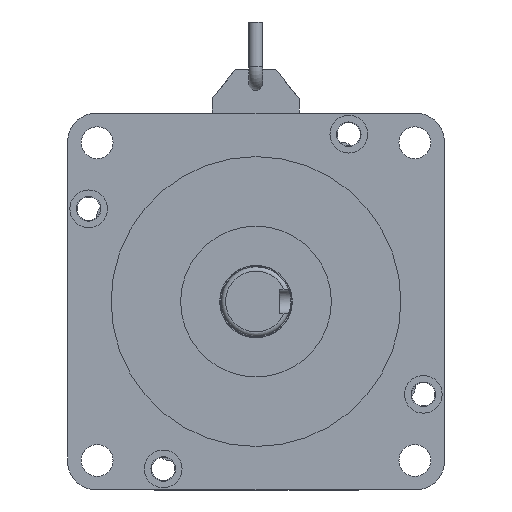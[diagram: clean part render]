
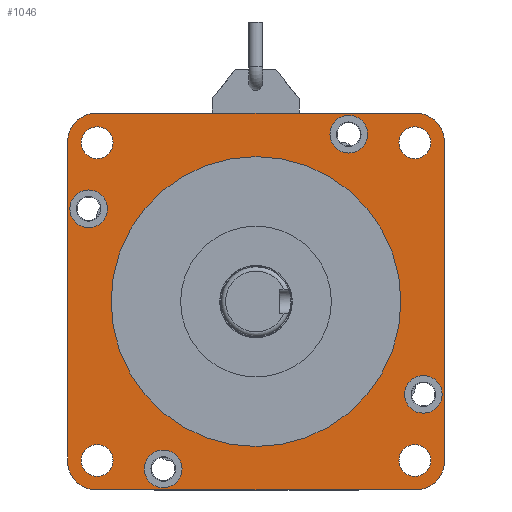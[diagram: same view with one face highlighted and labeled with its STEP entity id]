
A CAD part, front view. The second image highlights one B-rep face of the part: STEP entity #1046.
In plain terms, the highlighted planar face has unit normal (0, -1, 0).
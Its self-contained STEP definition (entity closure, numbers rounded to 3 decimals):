
#347=PLANE('',#8581);
#1046=ADVANCED_FACE('',(#1487,#1488,#1489,#1490,#1491,#1492,#1493,#1494,
#1495,#1496),#347,.T.);
#1487=FACE_BOUND('',#2018,.T.);
#1488=FACE_BOUND('',#2019,.T.);
#1489=FACE_BOUND('',#2020,.T.);
#1490=FACE_BOUND('',#2021,.T.);
#1491=FACE_BOUND('',#2022,.T.);
#1492=FACE_BOUND('',#2023,.T.);
#1493=FACE_BOUND('',#2024,.T.);
#1494=FACE_BOUND('',#2025,.T.);
#1495=FACE_BOUND('',#2026,.T.);
#1496=FACE_BOUND('',#2027,.T.);
#2018=EDGE_LOOP('',(#3746));
#2019=EDGE_LOOP('',(#3747));
#2020=EDGE_LOOP('',(#3748));
#2021=EDGE_LOOP('',(#3749));
#2022=EDGE_LOOP('',(#3750));
#2023=EDGE_LOOP('',(#3751));
#2024=EDGE_LOOP('',(#3752));
#2025=EDGE_LOOP('',(#3753));
#2026=EDGE_LOOP('',(#3754));
#2027=EDGE_LOOP('',(#3755,#3756,#3757,#3758,#3759,#3760,#3761,#3762));
#3746=ORIENTED_EDGE('',*,*,#5938,.T.);
#3747=ORIENTED_EDGE('',*,*,#5936,.T.);
#3748=ORIENTED_EDGE('',*,*,#5934,.T.);
#3749=ORIENTED_EDGE('',*,*,#5932,.T.);
#3750=ORIENTED_EDGE('',*,*,#5923,.T.);
#3751=ORIENTED_EDGE('',*,*,#5921,.T.);
#3752=ORIENTED_EDGE('',*,*,#5919,.T.);
#3753=ORIENTED_EDGE('',*,*,#5925,.T.);
#3754=ORIENTED_EDGE('',*,*,#5941,.T.);
#3755=ORIENTED_EDGE('',*,*,#5903,.F.);
#3756=ORIENTED_EDGE('',*,*,#5912,.T.);
#3757=ORIENTED_EDGE('',*,*,#5910,.F.);
#3758=ORIENTED_EDGE('',*,*,#5918,.T.);
#3759=ORIENTED_EDGE('',*,*,#5889,.F.);
#3760=ORIENTED_EDGE('',*,*,#5916,.T.);
#3761=ORIENTED_EDGE('',*,*,#5896,.F.);
#3762=ORIENTED_EDGE('',*,*,#5914,.T.);
#4902=VERTEX_POINT('',#12781);
#4907=VERTEX_POINT('',#12791);
#4908=VERTEX_POINT('',#12795);
#4913=VERTEX_POINT('',#12805);
#4914=VERTEX_POINT('',#12809);
#4919=VERTEX_POINT('',#12819);
#4920=VERTEX_POINT('',#12823);
#4925=VERTEX_POINT('',#12833);
#4926=VERTEX_POINT('',#12849);
#4928=VERTEX_POINT('',#12854);
#4930=VERTEX_POINT('',#12859);
#4932=VERTEX_POINT('',#12864);
#4939=VERTEX_POINT('',#12883);
#4941=VERTEX_POINT('',#12888);
#4943=VERTEX_POINT('',#12893);
#4945=VERTEX_POINT('',#12898);
#4948=VERTEX_POINT('',#12907);
#5889=EDGE_CURVE('',#4907,#4902,#7124,.T.);
#5896=EDGE_CURVE('',#4913,#4908,#7131,.T.);
#5903=EDGE_CURVE('',#4919,#4914,#7138,.T.);
#5910=EDGE_CURVE('',#4925,#4920,#7145,.T.);
#5912=EDGE_CURVE('',#4919,#4920,#6303,.T.);
#5914=EDGE_CURVE('',#4913,#4914,#6305,.T.);
#5916=EDGE_CURVE('',#4907,#4908,#6307,.T.);
#5918=EDGE_CURVE('',#4925,#4902,#6309,.T.);
#5919=EDGE_CURVE('',#4926,#4926,#6310,.T.);
#5921=EDGE_CURVE('',#4928,#4928,#6312,.T.);
#5923=EDGE_CURVE('',#4930,#4930,#6314,.T.);
#5925=EDGE_CURVE('',#4932,#4932,#6316,.T.);
#5932=EDGE_CURVE('',#4939,#4939,#6323,.T.);
#5934=EDGE_CURVE('',#4941,#4941,#6325,.T.);
#5936=EDGE_CURVE('',#4943,#4943,#6327,.T.);
#5938=EDGE_CURVE('',#4945,#4945,#6329,.T.);
#5941=EDGE_CURVE('',#4948,#4948,#6332,.T.);
#6303=CIRCLE('',#8532,10.);
#6305=CIRCLE('',#8535,10.);
#6307=CIRCLE('',#8538,10.);
#6309=CIRCLE('',#8541,10.);
#6310=CIRCLE('',#8543,5.5);
#6312=CIRCLE('',#8546,5.5);
#6314=CIRCLE('',#8549,5.5);
#6316=CIRCLE('',#8552,5.5);
#6323=CIRCLE('',#8564,6.5);
#6325=CIRCLE('',#8567,6.5);
#6327=CIRCLE('',#8570,6.5);
#6329=CIRCLE('',#8573,6.5);
#6332=CIRCLE('',#8579,50.);
#7124=LINE('',#12792,#7987);
#7131=LINE('',#12806,#7994);
#7138=LINE('',#12820,#8001);
#7145=LINE('',#12834,#8008);
#7987=VECTOR('',#10159,1.);
#7994=VECTOR('',#10168,1.);
#8001=VECTOR('',#10177,1.);
#8008=VECTOR('',#10186,1.);
#8532=AXIS2_PLACEMENT_3D('',#12837,#10191,#10192);
#8535=AXIS2_PLACEMENT_3D('',#12840,#10197,#10198);
#8538=AXIS2_PLACEMENT_3D('',#12843,#10203,#10204);
#8541=AXIS2_PLACEMENT_3D('',#12846,#10209,#10210);
#8543=AXIS2_PLACEMENT_3D('',#12848,#10213,#10214);
#8546=AXIS2_PLACEMENT_3D('',#12853,#10219,#10220);
#8549=AXIS2_PLACEMENT_3D('',#12858,#10225,#10226);
#8552=AXIS2_PLACEMENT_3D('',#12863,#10231,#10232);
#8564=AXIS2_PLACEMENT_3D('',#12882,#10255,#10256);
#8567=AXIS2_PLACEMENT_3D('',#12887,#10261,#10262);
#8570=AXIS2_PLACEMENT_3D('',#12892,#10267,#10268);
#8573=AXIS2_PLACEMENT_3D('',#12897,#10273,#10274);
#8579=AXIS2_PLACEMENT_3D('',#12906,#10285,#10286);
#8581=AXIS2_PLACEMENT_3D('',#12909,#10289,#10290);
#10159=DIRECTION('',(0.,0.,1.));
#10168=DIRECTION('',(-1.,0.,0.));
#10177=DIRECTION('',(0.,0.,-1.));
#10186=DIRECTION('',(1.,0.,0.));
#10191=DIRECTION('',(0.,-1.,0.));
#10192=DIRECTION('',(-1.,0.,0.));
#10197=DIRECTION('',(0.,-1.,0.));
#10198=DIRECTION('',(-1.,0.,0.));
#10203=DIRECTION('',(0.,-1.,0.));
#10204=DIRECTION('',(-1.,0.,0.));
#10209=DIRECTION('',(0.,-1.,0.));
#10210=DIRECTION('',(-1.,0.,0.));
#10213=DIRECTION('',(0.,1.,0.));
#10214=DIRECTION('',(0.,0.,1.));
#10219=DIRECTION('',(0.,1.,0.));
#10220=DIRECTION('',(-1.,0.,0.));
#10225=DIRECTION('',(0.,1.,0.));
#10226=DIRECTION('',(0.,0.,-1.));
#10231=DIRECTION('',(0.,1.,0.));
#10232=DIRECTION('',(1.,0.,0.));
#10255=DIRECTION('',(0.,1.,0.));
#10256=DIRECTION('',(0.,0.,1.));
#10261=DIRECTION('',(0.,1.,0.));
#10262=DIRECTION('',(-1.,0.,0.));
#10267=DIRECTION('',(0.,1.,0.));
#10268=DIRECTION('',(0.,0.,-1.));
#10273=DIRECTION('',(0.,1.,0.));
#10274=DIRECTION('',(1.,0.,0.));
#10285=DIRECTION('',(0.,1.,0.));
#10286=DIRECTION('',(-1.,0.,0.));
#10289=DIRECTION('',(0.,-1.,0.));
#10290=DIRECTION('',(-1.,0.,0.));
#12781=CARTESIAN_POINT('',(-61.464,-994.118,102.721));
#12791=CARTESIAN_POINT('',(-61.464,-994.118,-7.279));
#12792=CARTESIAN_POINT('',(-61.464,-994.118,47.721));
#12795=CARTESIAN_POINT('',(-51.464,-994.118,-17.279));
#12805=CARTESIAN_POINT('',(58.536,-994.118,-17.279));
#12806=CARTESIAN_POINT('',(3.536,-994.118,-17.279));
#12809=CARTESIAN_POINT('',(68.536,-994.118,-7.279));
#12819=CARTESIAN_POINT('',(68.536,-994.118,102.721));
#12820=CARTESIAN_POINT('',(68.536,-994.118,47.721));
#12823=CARTESIAN_POINT('',(58.536,-994.118,112.721));
#12833=CARTESIAN_POINT('',(-51.464,-994.118,112.721));
#12834=CARTESIAN_POINT('',(3.536,-994.118,112.721));
#12837=CARTESIAN_POINT('',(58.536,-994.118,102.721));
#12840=CARTESIAN_POINT('',(58.536,-994.118,-7.279));
#12843=CARTESIAN_POINT('',(-51.464,-994.118,-7.279));
#12846=CARTESIAN_POINT('',(-51.464,-994.118,102.721));
#12848=CARTESIAN_POINT('',(58.337,-994.118,102.522));
#12849=CARTESIAN_POINT('',(58.337,-994.118,108.022));
#12853=CARTESIAN_POINT('',(-51.264,-994.118,102.522));
#12854=CARTESIAN_POINT('',(-56.764,-994.118,102.522));
#12858=CARTESIAN_POINT('',(-51.264,-994.118,-7.079));
#12859=CARTESIAN_POINT('',(-51.264,-994.118,-12.579));
#12863=CARTESIAN_POINT('',(58.337,-994.118,-7.079));
#12864=CARTESIAN_POINT('',(63.837,-994.118,-7.079));
#12882=CARTESIAN_POINT('',(61.261,-994.118,15.724));
#12883=CARTESIAN_POINT('',(61.261,-994.118,22.224));
#12887=CARTESIAN_POINT('',(35.534,-994.118,105.446));
#12888=CARTESIAN_POINT('',(29.034,-994.118,105.446));
#12892=CARTESIAN_POINT('',(-54.189,-994.118,79.719));
#12893=CARTESIAN_POINT('',(-54.189,-994.118,73.219));
#12897=CARTESIAN_POINT('',(-28.461,-994.118,-10.004));
#12898=CARTESIAN_POINT('',(-21.961,-994.118,-10.004));
#12906=CARTESIAN_POINT('',(3.536,-994.118,47.721));
#12907=CARTESIAN_POINT('',(-46.464,-994.118,47.721));
#12909=CARTESIAN_POINT('',(3.536,-994.118,47.721));
